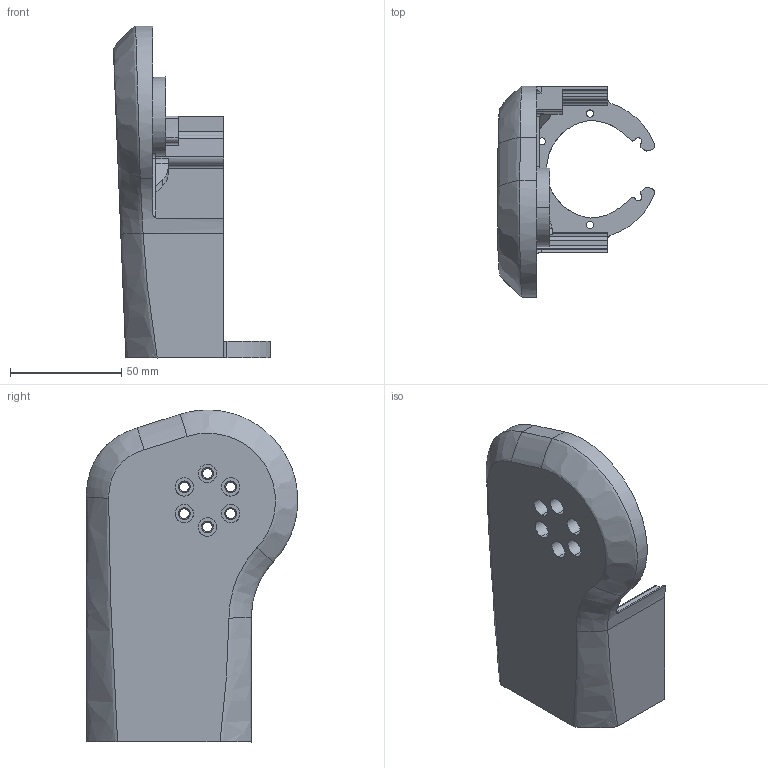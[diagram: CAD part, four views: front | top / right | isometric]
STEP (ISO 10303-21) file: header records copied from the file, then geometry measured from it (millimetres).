
FILE_DESCRIPTION((''),'2;1');
FILE_NAME('KC-C-401L_UP_FOREARM_DRIVE_1','2025-07-12T13:33:20',('Administrator'),(''),'CREO PARAMETRIC BY PTC INC, 2022073','CREO PARAMETRIC BY PTC INC, 2022073','');
FILE_SCHEMA(('CONFIG_CONTROL_DESIGN'));
Length unit declared in the file: millimetre
Products named in the file (1): KC-C-401L_UP_FOREARM_DRIVE_1
Bounding box: 70.57 x 94.81 x 149 mm (x, y, z)
Volume: 79516.7 mm3; surface area: 57378.4 mm2
Topology: 1 solids, 1 shells, 384 faces, 1042 edges, 627 vertices
Faces by surface type: cylinder 146, bspline 101, plane 64, cone 56, sphere 8, torus 5, extrusion 4
Entity records: 25137 total; most frequent: CARTESIAN_POINT 16409, ORIENTED_EDGE 1970, DIRECTION 1586, EDGE_CURVE 985, AXIS2_PLACEMENT_3D 626, VERTEX_POINT 625, EDGE_LOOP 422, FACE_OUTER_BOUND 382
